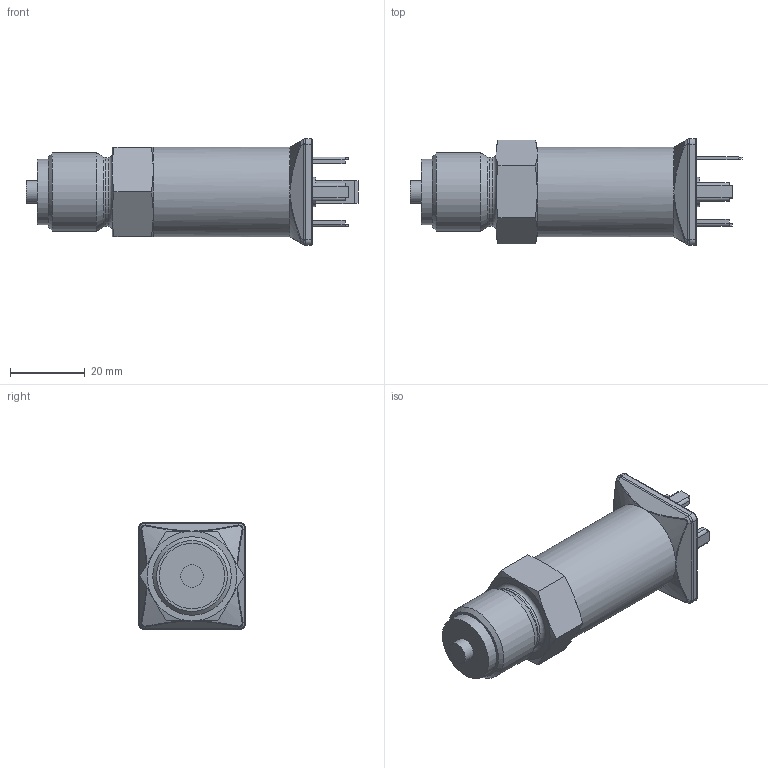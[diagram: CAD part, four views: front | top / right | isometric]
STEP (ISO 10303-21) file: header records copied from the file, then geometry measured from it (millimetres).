
FILE_DESCRIPTION(/* description */ (''),/* implementation_level */ '2;1');
FILE_NAME(/* name */ '17.600G-xxxx-R-x-x-100-200-2-000.stp',/* time_stamp */ '2024-11-05T09:08:42+01:00',/* author */ ('cz1166'),/* organization */ (''),/* preprocessor_version */ 'ST-DEVELOPER v19.2',/* originating_system */ 'Autodesk Inventor 2023',/* authorisation */ '');
FILE_SCHEMA (('AUTOMOTIVE_DESIGN { 1 0 10303 214 3 1 1 }'));
Length unit declared in the file: millimetre
Products named in the file (1): 17.600G-xxxx-R-x-x-100-200-2-000
Bounding box: 88.7 x 28.5 x 28.5 mm (x, y, z)
Volume: 32547.4 mm3; surface area: 8516.9 mm2
Topology: 1 solids, 1 shells, 391 faces, 1049 edges, 660 vertices
Faces by surface type: plane 208, bspline 94, cylinder 65, cone 18, torus 6
Full cylindrical faces by diameter (mm): 2 x2, 6 x1, 7.8 x1, 8 x1, 17.5 x1, 18.4 x1, 19.9 x1, 20.96 x1, 24 x1
Entity records: 13544 total; most frequent: CARTESIAN_POINT 3793, ORIENTED_EDGE 2082, DIRECTION 1687, EDGE_CURVE 1041, VERTEX_POINT 660, LINE 627, VECTOR 627, AXIS2_PLACEMENT_3D 530
